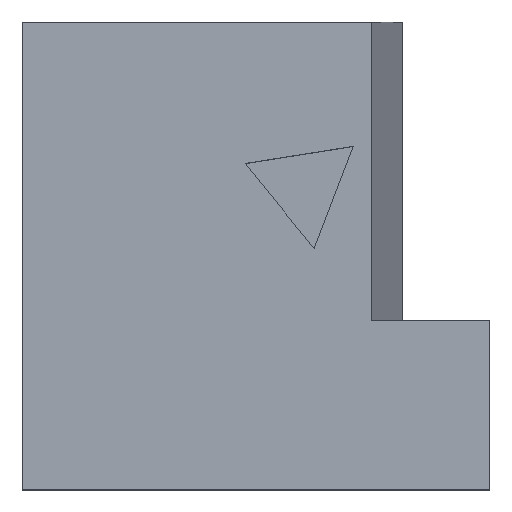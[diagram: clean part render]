
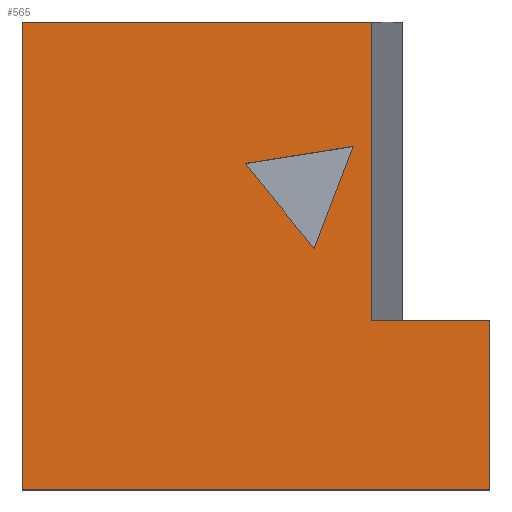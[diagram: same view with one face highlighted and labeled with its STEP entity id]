
A CAD part, top view. The second image highlights one B-rep face of the part: STEP entity #565.
In plain terms, the highlighted planar face has unit normal (0, 0, 1).
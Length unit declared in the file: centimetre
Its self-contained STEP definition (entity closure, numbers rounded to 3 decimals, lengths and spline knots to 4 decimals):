
#4 = ORIENTED_EDGE ( 'NONE', *, *, #94, .T. ) ;
#13 = LINE ( 'NONE', #265, #252 ) ;
#15 = VECTOR ( 'NONE', #638, 100. ) ;
#37 = CARTESIAN_POINT ( 'NONE',  ( 1000., 361.8823, 1000. ) ) ;
#41 = DIRECTION ( 'NONE',  ( -1., 0., 0. ) ) ;
#42 = VECTOR ( 'NONE', #534, 100. ) ;
#59 = LINE ( 'NONE', #513, #269 ) ;
#63 = VERTEX_POINT ( 'NONE', #456 ) ;
#80 = AXIS2_PLACEMENT_3D ( 'NONE', #143, #240, #588 ) ;
#82 = ORIENTED_EDGE ( 'NONE', *, *, #96, .T. ) ;
#85 = CARTESIAN_POINT ( 'NONE',  ( 0., 1000., 1000. ) ) ;
#92 = FACE_BOUND ( 'NONE', #219, .T. ) ;
#94 = EDGE_CURVE ( 'NONE', #517, #164, #519, .T. ) ;
#96 = EDGE_CURVE ( 'NONE', #164, #421, #59, .T. ) ;
#104 = EDGE_CURVE ( 'NONE', #622, #421, #13, .T. ) ;
#105 = DIRECTION ( 'NONE',  ( 0., -1., 0. ) ) ;
#115 = VERTEX_POINT ( 'NONE', #275 ) ;
#126 = LINE ( 'NONE', #429, #142 ) ;
#137 = VERTEX_POINT ( 'NONE', #172 ) ;
#141 = CARTESIAN_POINT ( 'NONE',  ( 0., 0., 1000. ) ) ;
#142 = VECTOR ( 'NONE', #274, 100. ) ;
#143 = CARTESIAN_POINT ( 'NONE',  ( 0., 0., 1000. ) ) ;
#162 = ORIENTED_EDGE ( 'NONE', *, *, #264, .F. ) ;
#164 = VERTEX_POINT ( 'NONE', #236 ) ;
#168 = EDGE_CURVE ( 'NONE', #137, #517, #291, .T. ) ;
#172 = CARTESIAN_POINT ( 'NONE',  ( 0., 1000., 1000. ) ) ;
#179 = CARTESIAN_POINT ( 'NONE',  ( 624.076, 515.9081, 1000. ) ) ;
#182 = ORIENTED_EDGE ( 'NONE', *, *, #104, .F. ) ;
#192 = CARTESIAN_POINT ( 'NONE',  ( 624.076, 515.9081, 1000. ) ) ;
#195 = VECTOR ( 'NONE', #105, 100. ) ;
#219 = EDGE_LOOP ( 'NONE', ( #314, #162, #522 ) ) ;
#235 = LINE ( 'NONE', #539, #15 ) ;
#236 = CARTESIAN_POINT ( 'NONE',  ( 1000., 0., 1000. ) ) ;
#240 = DIRECTION ( 'NONE',  ( 0., 0., 1. ) ) ;
#252 = VECTOR ( 'NONE', #549, 100. ) ;
#256 = VERTEX_POINT ( 'NONE', #363 ) ;
#260 = DIRECTION ( 'NONE',  ( 0., 1., 0. ) ) ;
#264 = EDGE_CURVE ( 'NONE', #63, #115, #126, .T. ) ;
#265 = CARTESIAN_POINT ( 'NONE',  ( 1000., 361.8823, 1000. ) ) ;
#269 = VECTOR ( 'NONE', #260, 100. ) ;
#270 = VECTOR ( 'NONE', #542, 100. ) ;
#273 = CARTESIAN_POINT ( 'NONE',  ( 0., 0., 1000. ) ) ;
#274 = DIRECTION ( 'NONE',  ( -0.988, -0.157, 0. ) ) ;
#275 = CARTESIAN_POINT ( 'NONE',  ( 476.8662, 697.5827, 1000. ) ) ;
#283 = FACE_OUTER_BOUND ( 'NONE', #367, .T. ) ;
#291 = LINE ( 'NONE', #394, #195 ) ;
#312 = ORIENTED_EDGE ( 'NONE', *, *, #432, .T. ) ;
#314 = ORIENTED_EDGE ( 'NONE', *, *, #380, .F. ) ;
#317 = ORIENTED_EDGE ( 'NONE', *, *, #490, .T. ) ;
#341 = CARTESIAN_POINT ( 'NONE',  ( 746.979, 361.8823, 1000. ) ) ;
#363 = CARTESIAN_POINT ( 'NONE',  ( 746.979, 1000., 1000. ) ) ;
#367 = EDGE_LOOP ( 'NONE', ( #317, #312, #481, #4, #82, #182 ) ) ;
#371 = VERTEX_POINT ( 'NONE', #179 ) ;
#380 = EDGE_CURVE ( 'NONE', #115, #371, #235, .T. ) ;
#387 = EDGE_CURVE ( 'NONE', #371, #63, #634, .T. ) ;
#394 = CARTESIAN_POINT ( 'NONE',  ( 0., 1000., 1000. ) ) ;
#409 = CARTESIAN_POINT ( 'NONE',  ( 746.979, 361.8823, 1000. ) ) ;
#421 = VERTEX_POINT ( 'NONE', #37 ) ;
#429 = CARTESIAN_POINT ( 'NONE',  ( 707.8058, 734.2328, 1000. ) ) ;
#432 = EDGE_CURVE ( 'NONE', #256, #137, #487, .T. ) ;
#433 = LINE ( 'NONE', #341, #270 ) ;
#456 = CARTESIAN_POINT ( 'NONE',  ( 707.8058, 734.2328, 1000. ) ) ;
#481 = ORIENTED_EDGE ( 'NONE', *, *, #168, .T. ) ;
#487 = LINE ( 'NONE', #85, #503 ) ;
#490 = EDGE_CURVE ( 'NONE', #622, #256, #433, .T. ) ;
#503 = VECTOR ( 'NONE', #41, 100. ) ;
#513 = CARTESIAN_POINT ( 'NONE',  ( 1000., 1000., 1000. ) ) ;
#517 = VERTEX_POINT ( 'NONE', #141 ) ;
#519 = LINE ( 'NONE', #273, #612 ) ;
#522 = ORIENTED_EDGE ( 'NONE', *, *, #387, .F. ) ;
#534 = DIRECTION ( 'NONE',  ( 0.358, 0.934, 0. ) ) ;
#539 = CARTESIAN_POINT ( 'NONE',  ( 476.8662, 697.5827, 1000. ) ) ;
#542 = DIRECTION ( 'NONE',  ( 0., 1., 0. ) ) ;
#549 = DIRECTION ( 'NONE',  ( 1., 0., 0. ) ) ;
#565 = ADVANCED_FACE ( 'NONE', ( #283, #92 ), #582, .T. ) ;
#582 = PLANE ( 'NONE',  #80 ) ;
#588 = DIRECTION ( 'NONE',  ( 1., 0., 0. ) ) ;
#604 = DIRECTION ( 'NONE',  ( 1., 0., 0. ) ) ;
#612 = VECTOR ( 'NONE', #604, 100. ) ;
#622 = VERTEX_POINT ( 'NONE', #409 ) ;
#634 = LINE ( 'NONE', #192, #42 ) ;
#638 = DIRECTION ( 'NONE',  ( 0.63, -0.777, 0. ) ) ;
